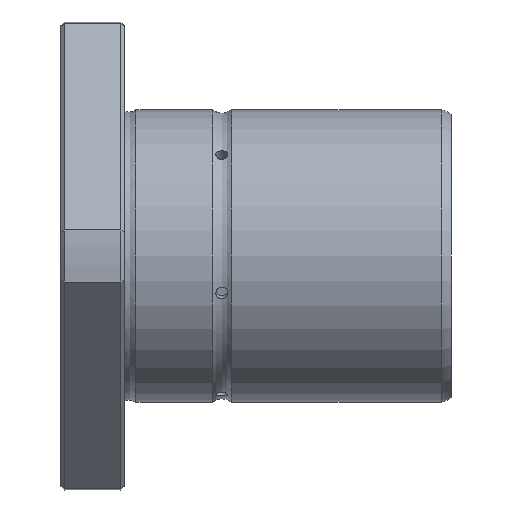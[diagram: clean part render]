
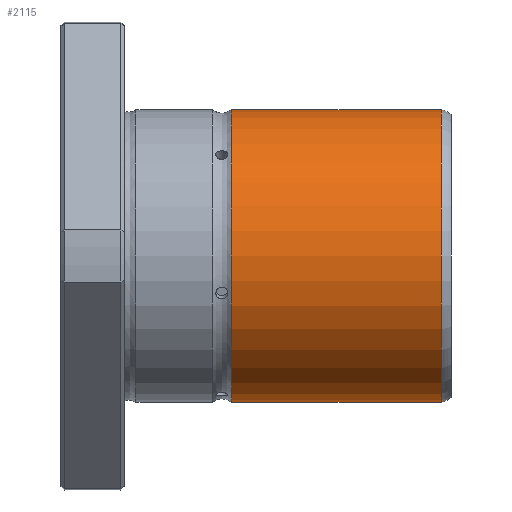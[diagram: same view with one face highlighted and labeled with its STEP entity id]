
A CAD part, front view. The second image highlights one B-rep face of the part: STEP entity #2115.
In plain terms, the highlighted cylindrical face has radius 30 mm (diameter 60 mm), a full revolution.
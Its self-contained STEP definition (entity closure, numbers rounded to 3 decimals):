
#2081=CARTESIAN_POINT('',(78.016,0.0,30.));
#2082=VERTEX_POINT('',#2081);
#2083=CARTESIAN_POINT('',(78.016,0.0,0.0));
#2084=DIRECTION('',(-1.0,0.0,0.0));
#2085=DIRECTION('',(0.0,0.0,1.0));
#2086=AXIS2_PLACEMENT_3D('',#2083,#2084,#2085);
#2087=CIRCLE('',#2086,30.);
#2088=EDGE_CURVE('',#2082,#2082,#2087,.T.);
#2096=CARTESIAN_POINT('',(56.5,0.0,0.0));
#2097=DIRECTION('',(-1.0,0.0,0.0));
#2098=DIRECTION('',(0.0,0.0,1.0));
#2099=AXIS2_PLACEMENT_3D('',#2096,#2097,#2098);
#2100=CYLINDRICAL_SURFACE('',#2099,30.);
#2101=CARTESIAN_POINT('',(34.984,0.0,30.0));
#2102=VERTEX_POINT('',#2101);
#2103=CARTESIAN_POINT('',(34.984,0.0,0.0));
#2104=DIRECTION('',(-1.0,0.0,0.0));
#2105=DIRECTION('',(0.0,0.0,1.0));
#2106=AXIS2_PLACEMENT_3D('',#2103,#2104,#2105);
#2107=CIRCLE('',#2106,30.0);
#2108=EDGE_CURVE('',#2102,#2102,#2107,.T.);
#2109=ORIENTED_EDGE('',*,*,#2108,.F.);
#2110=EDGE_LOOP('',(#2109));
#2111=FACE_OUTER_BOUND('',#2110,.T.);
#2112=ORIENTED_EDGE('',*,*,#2088,.T.);
#2113=EDGE_LOOP('',(#2112));
#2114=FACE_BOUND('',#2113,.T.);
#2115=ADVANCED_FACE('',(#2111,#2114),#2100,.T.);
